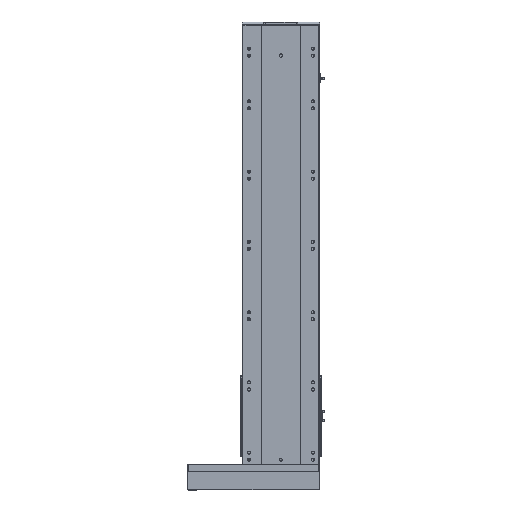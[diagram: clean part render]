
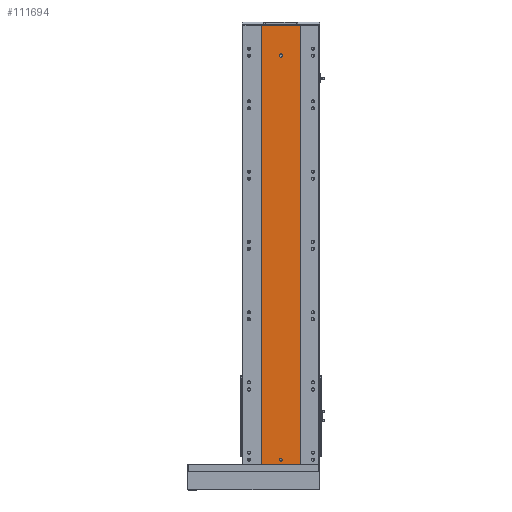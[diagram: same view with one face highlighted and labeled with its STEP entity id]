
A CAD part, top view. The second image highlights one B-rep face of the part: STEP entity #111694.
In plain terms, the highlighted planar face has unit normal (0, 0, 1).
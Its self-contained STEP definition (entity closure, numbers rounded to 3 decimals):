
#4982 = VERTEX_POINT ( 'NONE', #44759 ) ;
#6692 = LINE ( 'NONE', #51384, #32125 ) ;
#7087 = CARTESIAN_POINT ( 'NONE',  ( 4., 1165., 58. ) ) ;
#8488 = CARTESIAN_POINT ( 'NONE',  ( -55., 1251., 58. ) ) ;
#8685 = ORIENTED_EDGE ( 'NONE', *, *, #76034, .F. ) ;
#9185 = LINE ( 'NONE', #55386, #25620 ) ;
#9421 = DIRECTION ( 'NONE',  ( 0., -1., 0. ) ) ;
#9967 = EDGE_CURVE ( 'NONE', #119203, #10909, #102174, .T. ) ;
#10842 = CARTESIAN_POINT ( 'NONE',  ( 0., 14., 58. ) ) ;
#10909 = VERTEX_POINT ( 'NONE', #92091 ) ;
#11775 = CARTESIAN_POINT ( 'NONE',  ( -55., 1251., 58. ) ) ;
#11979 = DIRECTION ( 'NONE',  ( 0., -1., 0. ) ) ;
#12511 = DIRECTION ( 'NONE',  ( 1., 0., 0. ) ) ;
#14043 = CARTESIAN_POINT ( 'NONE',  ( 0., 1165., 58. ) ) ;
#14612 = LINE ( 'NONE', #94044, #56385 ) ;
#19092 = FACE_OUTER_BOUND ( 'NONE', #26152, .T. ) ;
#19600 = ORIENTED_EDGE ( 'NONE', *, *, #9967, .F. ) ;
#20063 = LINE ( 'NONE', #100597, #46926 ) ;
#20504 = VERTEX_POINT ( 'NONE', #53170 ) ;
#20640 = VERTEX_POINT ( 'NONE', #11775 ) ;
#21688 = CARTESIAN_POINT ( 'NONE',  ( 0., 14., 58. ) ) ;
#22888 = VERTEX_POINT ( 'NONE', #108040 ) ;
#23732 = EDGE_CURVE ( 'NONE', #20640, #70024, #65784, .T. ) ;
#24856 = EDGE_LOOP ( 'NONE', ( #8685, #71613 ) ) ;
#25620 = VECTOR ( 'NONE', #103571, 1000. ) ;
#26152 = EDGE_LOOP ( 'NONE', ( #87558, #91858, #108156, #84151 ) ) ;
#32125 = VECTOR ( 'NONE', #97972, 1000. ) ;
#35392 = CARTESIAN_POINT ( 'NONE',  ( 55., 1251., 58. ) ) ;
#40253 = CARTESIAN_POINT ( 'NONE',  ( 55., 0., 58. ) ) ;
#40496 = DIRECTION ( 'NONE',  ( 0., 0., 1. ) ) ;
#42749 = CARTESIAN_POINT ( 'NONE',  ( -4., 1165., 58. ) ) ;
#44759 = CARTESIAN_POINT ( 'NONE',  ( 4., 14., 58. ) ) ;
#45664 = VERTEX_POINT ( 'NONE', #35392 ) ;
#46926 = VECTOR ( 'NONE', #98982, 1000. ) ;
#47684 = EDGE_CURVE ( 'NONE', #10909, #20504, #95408, .T. ) ;
#47768 = CIRCLE ( 'NONE', #67875, 4. ) ;
#51384 = CARTESIAN_POINT ( 'NONE',  ( -55., 0., 58. ) ) ;
#51990 = DIRECTION ( 'NONE',  ( 1., 0., 0. ) ) ;
#53133 = ORIENTED_EDGE ( 'NONE', *, *, #47684, .F. ) ;
#53170 = CARTESIAN_POINT ( 'NONE',  ( 4., 1163., 58. ) ) ;
#55120 = DIRECTION ( 'NONE',  ( 0., 0., 1. ) ) ;
#55386 = CARTESIAN_POINT ( 'NONE',  ( 4., 1163., 58. ) ) ;
#55945 = CARTESIAN_POINT ( 'NONE',  ( 0., 1163., 58. ) ) ;
#56385 = VECTOR ( 'NONE', #9421, 1000. ) ;
#57426 = EDGE_CURVE ( 'NONE', #104610, #119203, #47768, .T. ) ;
#61801 = PLANE ( 'NONE',  #111112 ) ;
#65486 = AXIS2_PLACEMENT_3D ( 'NONE', #55945, #55120, #83041 ) ;
#65784 = LINE ( 'NONE', #8488, #85162 ) ;
#67875 = AXIS2_PLACEMENT_3D ( 'NONE', #14043, #71163, #51990 ) ;
#68274 = ORIENTED_EDGE ( 'NONE', *, *, #76337, .F. ) ;
#69090 = CARTESIAN_POINT ( 'NONE',  ( -4., 1163., 58. ) ) ;
#69738 = EDGE_CURVE ( 'NONE', #45664, #109321, #14612, .T. ) ;
#70024 = VERTEX_POINT ( 'NONE', #103249 ) ;
#71163 = DIRECTION ( 'NONE',  ( 0., 0., 1. ) ) ;
#71613 = ORIENTED_EDGE ( 'NONE', *, *, #90166, .F. ) ;
#74314 = DIRECTION ( 'NONE',  ( 0., 0., -1. ) ) ;
#76034 = EDGE_CURVE ( 'NONE', #4982, #22888, #77875, .T. ) ;
#76337 = EDGE_CURVE ( 'NONE', #20504, #104610, #9185, .T. ) ;
#76939 = VECTOR ( 'NONE', #11979, 1000. ) ;
#77154 = DIRECTION ( 'NONE',  ( 0., 0., 1. ) ) ;
#77875 = CIRCLE ( 'NONE', #120235, 4. ) ;
#78413 = DIRECTION ( 'NONE',  ( 1., 0., 0. ) ) ;
#79411 = ORIENTED_EDGE ( 'NONE', *, *, #57426, .F. ) ;
#83041 = DIRECTION ( 'NONE',  ( 1., 0., 0. ) ) ;
#84151 = ORIENTED_EDGE ( 'NONE', *, *, #23732, .T. ) ;
#84661 = DIRECTION ( 'NONE',  ( -1., 0., 0. ) ) ;
#85162 = VECTOR ( 'NONE', #113393, 1000. ) ;
#86198 = FACE_BOUND ( 'NONE', #105238, .T. ) ;
#87558 = ORIENTED_EDGE ( 'NONE', *, *, #103659, .T. ) ;
#90166 = EDGE_CURVE ( 'NONE', #22888, #4982, #111565, .T. ) ;
#91858 = ORIENTED_EDGE ( 'NONE', *, *, #69738, .F. ) ;
#92091 = CARTESIAN_POINT ( 'NONE',  ( -4., 1163., 58. ) ) ;
#94044 = CARTESIAN_POINT ( 'NONE',  ( 55., 1251., 58. ) ) ;
#95408 = CIRCLE ( 'NONE', #65486, 4. ) ;
#95454 = EDGE_CURVE ( 'NONE', #20640, #45664, #20063, .T. ) ;
#96546 = FACE_BOUND ( 'NONE', #24856, .T. ) ;
#97972 = DIRECTION ( 'NONE',  ( 1., 0., 0. ) ) ;
#98982 = DIRECTION ( 'NONE',  ( 1., 0., 0. ) ) ;
#100597 = CARTESIAN_POINT ( 'NONE',  ( -55., 1251., 58. ) ) ;
#102174 = LINE ( 'NONE', #69090, #76939 ) ;
#103249 = CARTESIAN_POINT ( 'NONE',  ( -55., 0., 58. ) ) ;
#103300 = CARTESIAN_POINT ( 'NONE',  ( -55., 1251., 58. ) ) ;
#103571 = DIRECTION ( 'NONE',  ( 0., 1., 0. ) ) ;
#103659 = EDGE_CURVE ( 'NONE', #70024, #109321, #6692, .T. ) ;
#104610 = VERTEX_POINT ( 'NONE', #7087 ) ;
#105238 = EDGE_LOOP ( 'NONE', ( #68274, #53133, #19600, #79411 ) ) ;
#108040 = CARTESIAN_POINT ( 'NONE',  ( -4., 14., 58. ) ) ;
#108156 = ORIENTED_EDGE ( 'NONE', *, *, #95454, .F. ) ;
#109321 = VERTEX_POINT ( 'NONE', #40253 ) ;
#111112 = AXIS2_PLACEMENT_3D ( 'NONE', #103300, #74314, #84661 ) ;
#111565 = CIRCLE ( 'NONE', #115141, 4. ) ;
#111694 = ADVANCED_FACE ( 'NONE', ( #96546, #86198, #19092 ), #61801, .F. ) ;
#113393 = DIRECTION ( 'NONE',  ( 0., -1., 0. ) ) ;
#115141 = AXIS2_PLACEMENT_3D ( 'NONE', #21688, #40496, #12511 ) ;
#119203 = VERTEX_POINT ( 'NONE', #42749 ) ;
#120235 = AXIS2_PLACEMENT_3D ( 'NONE', #10842, #77154, #78413 ) ;
